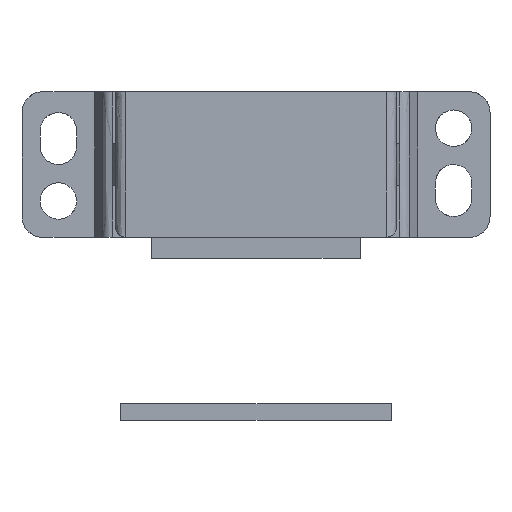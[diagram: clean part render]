
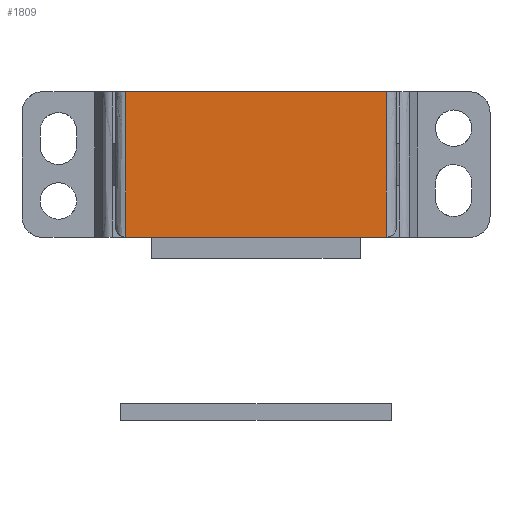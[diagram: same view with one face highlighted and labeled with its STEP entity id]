
A CAD part, top view. The second image highlights one B-rep face of the part: STEP entity #1809.
In plain terms, the highlighted free-form (B-spline) face has degree [1, 1] with [2, 2] control points.
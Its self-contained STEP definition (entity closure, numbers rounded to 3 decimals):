
#969=CARTESIAN_POINT('',(12.5,-14.0,11.0));
#970=VERTEX_POINT('',#969);
#993=CARTESIAN_POINT('',(12.5,0.0,11.0));
#994=VERTEX_POINT('',#993);
#1007=CARTESIAN_POINT('',(12.5,-14.0,11.0));
#1008=CARTESIAN_POINT('',(12.5,0.0,11.0));
#1009=QUASI_UNIFORM_CURVE('',1,(#1007,#1008),.UNSPECIFIED.,.F.,.U.);
#1010=EDGE_CURVE('',#970,#994,#1009,.T.);
#1097=CARTESIAN_POINT('',(-12.5,-14.0,11.0));
#1098=VERTEX_POINT('',#1097);
#1166=CARTESIAN_POINT('',(-12.5,0.0,11.0));
#1167=VERTEX_POINT('',#1166);
#1186=CARTESIAN_POINT('',(-12.5,0.0,11.0));
#1187=CARTESIAN_POINT('',(-12.5,-14.0,11.0));
#1188=QUASI_UNIFORM_CURVE('',1,(#1186,#1187),.UNSPECIFIED.,.F.,.U.);
#1189=EDGE_CURVE('',#1167,#1098,#1188,.T.);
#1790=CARTESIAN_POINT('',(-13.749,-14.699,11.0));
#1791=CARTESIAN_POINT('',(13.749,-14.699,11.0));
#1792=CARTESIAN_POINT('',(-13.749,0.699,11.0));
#1793=CARTESIAN_POINT('',(13.749,0.699,11.0));
#1794=B_SPLINE_SURFACE_WITH_KNOTS('',1,1,((#1790,#1792),(#1791,#1793)),.UNSPECIFIED.,.F.,.F.,.U.,(2,2),(2,2),(0.0,27.498),(0.0,15.399),.UNSPECIFIED.);
#1795=CARTESIAN_POINT('',(12.5,0.0,11.0));
#1796=CARTESIAN_POINT('',(-12.5,0.0,11.0));
#1797=QUASI_UNIFORM_CURVE('',1,(#1795,#1796),.UNSPECIFIED.,.F.,.U.);
#1798=EDGE_CURVE('',#994,#1167,#1797,.T.);
#1799=ORIENTED_EDGE('',*,*,#1798,.T.);
#1800=ORIENTED_EDGE('',*,*,#1189,.T.);
#1801=CARTESIAN_POINT('',(12.5,-14.0,11.0));
#1802=CARTESIAN_POINT('',(-12.5,-14.0,11.0));
#1803=QUASI_UNIFORM_CURVE('',1,(#1801,#1802),.UNSPECIFIED.,.F.,.U.);
#1804=EDGE_CURVE('',#970,#1098,#1803,.T.);
#1805=ORIENTED_EDGE('',*,*,#1804,.F.);
#1806=ORIENTED_EDGE('',*,*,#1010,.T.);
#1807=EDGE_LOOP('',(#1799,#1800,#1805,#1806));
#1808=FACE_OUTER_BOUND('',#1807,.T.);
#1809=ADVANCED_FACE('',(#1808),#1794,.T.);
